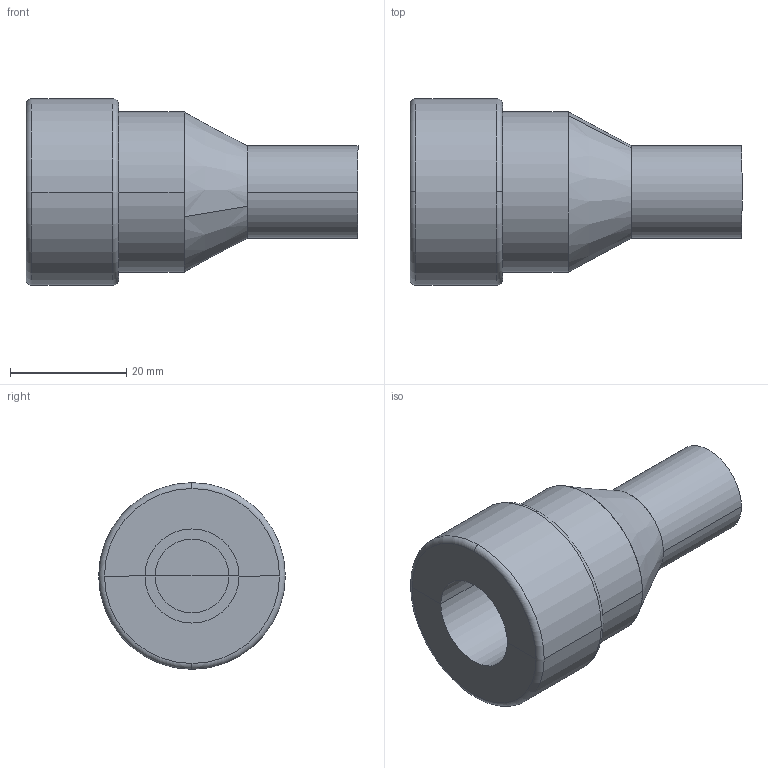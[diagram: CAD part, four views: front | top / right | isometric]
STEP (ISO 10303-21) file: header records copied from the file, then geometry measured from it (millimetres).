
FILE_DESCRIPTION (( 'STEP AP203' ), '1' );
FILE_NAME ('Viega_MegaPress_Coupling,Transition4813-4ZL - 1_2in.STEP', '2025-02-21T14:50:40', ( '' ), ( '' ), 'SwSTEP 2.0', 'SolidWorks 2020', '' );
FILE_SCHEMA (( 'CONFIG_CONTROL_DESIGN' ));
Length unit declared in the file: millimetre
Products named in the file (1): Viega_MegaPress_Coupling,Transition4813-4ZL - 1_2in
Bounding box: 57.1 x 32.1 x 32.1 mm (x, y, z)
Volume: 27032.8 mm3; surface area: 11462.3 mm2
Topology: 5 solids, 5 shells, 36 faces, 76 edges, 48 vertices
Faces by surface type: plane 16, cylinder 14, torus 4, cone 2
Entity records: 1065 total; most frequent: DIRECTION 202, CARTESIAN_POINT 161, ORIENTED_EDGE 152, AXIS2_PLACEMENT_3D 89, EDGE_CURVE 76, CIRCLE 52, VERTEX_POINT 48, EDGE_LOOP 38
